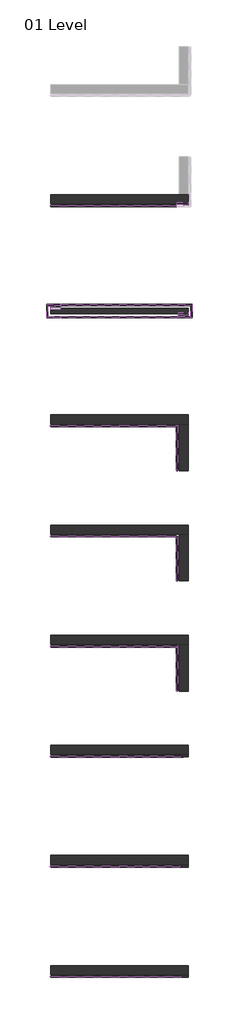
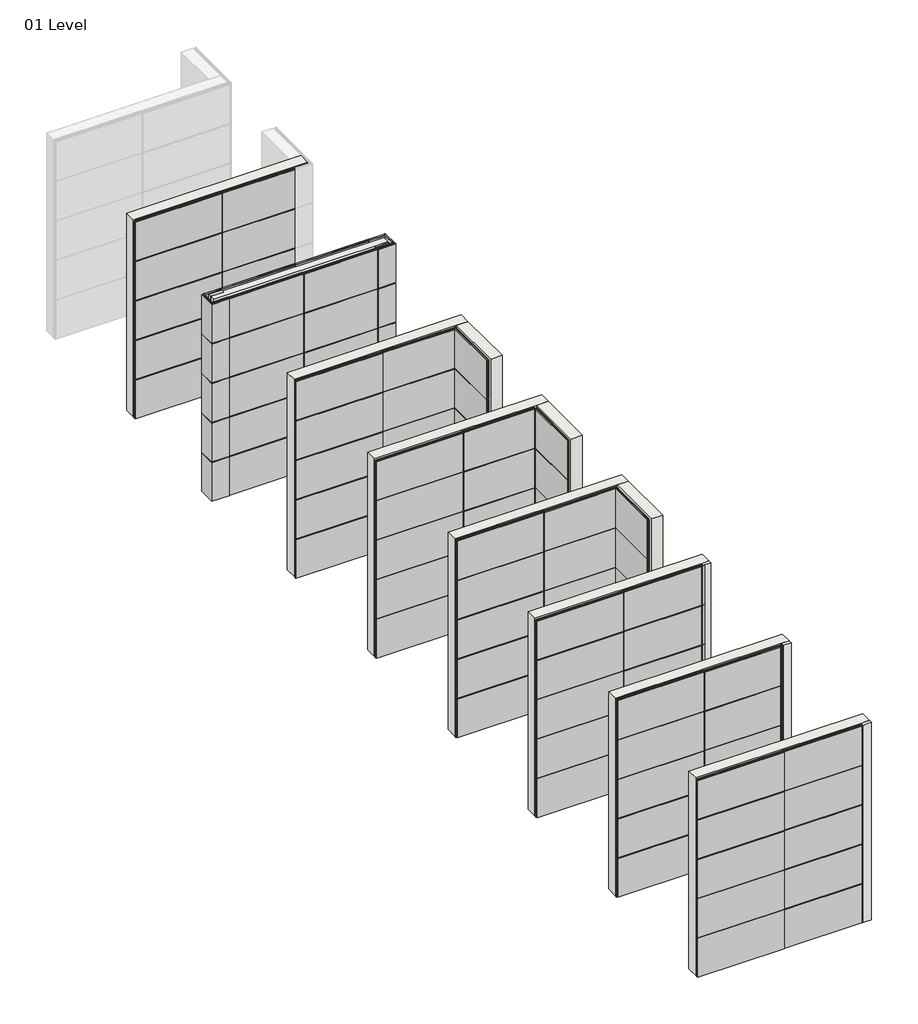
# One storey, part 1 of 9: 130 plates, 14 walls.
"""IFC4 building model written with IfcOpenShell, lengths in millimetres."""

from ifc_helpers import new_model, si_unit, frame, origin, origin_with_axes, place, context, project, spatial, polyline, outline, extrude, faceted_brep, transform, mapped, element, save
from components import plate_15c921bf, plate_c43d1202, plate_b0df7e0a, plate_319040bf, plate_e989e5cf, plate_f7a88e82, plate_eaba8ef4, plate_4dd33a9e, plate_b3fd9b4b, plate_bf6faf88, plate_71c73165, plate_b28a252d, empty_system_panel_empty_985d2cdc, empty_system_panel_empty_90a12fe6

model = new_model("IFC4")

# Units and contexts
model_context = context("Model", 3, world=origin())
ifc_project = project(units=[si_unit("LENGTHUNIT", "METRE", prefix="MILLI")], contexts=[model_context])

# Site, building, storey
site = spatial("IfcSite", under=ifc_project)
building = spatial("IfcBuilding", under=site)
storey = spatial("IfcBuildingStorey", under=building, Name="01 Level", Elevation=0.0)

# Plates
placement = place(None, origin())
plate_shape = plate_15c921bf(model_context)
element("IfcPlate", 1, ObjectType="Trimo_Qbiss Screen_Normal Panel-HORIZONTAL : HR - B", at=placement, inside=storey, context=model_context, shape_type="MappedRepresentation", body=[
    mapped(plate_shape, transform((-37452.2237135, -3083.2713317, 0.0), x_axis=(-1.0, 0.0, 0.0), y_axis=(0.0, -1.0, 0.0), z_axis=(0.0, 0.0, 1.0))),
])
element("IfcPlate", 2, ObjectType="Trimo_Qbiss Screen_Normal Panel-HORIZONTAL : HR - B", at=placement, inside=storey, context=model_context, shape_type="MappedRepresentation", body=[
    mapped(plate_shape, transform((-37452.2237135, -3083.2713317, 4800.0), x_axis=(-1.0, 0.0, 0.0), y_axis=(0.0, -1.0, 0.0), z_axis=(0.0, 0.0, 1.0))),
])
element("IfcPlate", 3, ObjectType="Trimo_Qbiss Screen_Normal Panel-HORIZONTAL : HR - B", at=placement, inside=storey, context=model_context, shape_type="MappedRepresentation", body=[
    mapped(plate_shape, transform((-37452.2237135, -3083.2713317, 2400.0), x_axis=(-1.0, 0.0, 0.0), y_axis=(0.0, -1.0, 0.0), z_axis=(0.0, 0.0, 1.0))),
])
element("IfcPlate", 4, ObjectType="Trimo_Qbiss Screen_Normal Panel-HORIZONTAL : HR - B", at=placement, inside=storey, context=model_context, shape_type="MappedRepresentation", body=[
    mapped(plate_shape, transform((-37452.2237135, -3083.2713317, 3600.0), x_axis=(-1.0, 0.0, 0.0), y_axis=(0.0, -1.0, 0.0), z_axis=(0.0, 0.0, 1.0))),
])
element("IfcPlate", 5, ObjectType="Trimo_Qbiss Screen_Normal Panel-HORIZONTAL : HR - B", at=placement, inside=storey, context=model_context, shape_type="MappedRepresentation", body=[
    mapped(plate_shape, transform((-37452.2237135, -3083.2713317, 1200.0), x_axis=(-1.0, 0.0, 0.0), y_axis=(0.0, -1.0, 0.0), z_axis=(0.0, 0.0, 1.0))),
])
element("IfcPlate", 6, ObjectType="Trimo_Qbiss Screen_Normal Panel-HORIZONTAL : HR - B", at=placement, inside=storey, context=model_context, shape_type="MappedRepresentation", body=[
    mapped(plate_shape, transform((-37452.2237135, -11083.2713317, 0.0), x_axis=(-1.0, 0.0, 0.0), y_axis=(0.0, -1.0, 0.0), z_axis=(0.0, 0.0, 1.0))),
])
element("IfcPlate", 7, ObjectType="Trimo_Qbiss Screen_Normal Panel-HORIZONTAL : HR - B", at=placement, inside=storey, context=model_context, shape_type="MappedRepresentation", body=[
    mapped(plate_shape, transform((-37452.2237135, -11083.2713317, 4800.0), x_axis=(-1.0, 0.0, 0.0), y_axis=(0.0, -1.0, 0.0), z_axis=(0.0, 0.0, 1.0))),
])
element("IfcPlate", 8, ObjectType="Trimo_Qbiss Screen_Normal Panel-HORIZONTAL : HR - B", at=placement, inside=storey, context=model_context, shape_type="MappedRepresentation", body=[
    mapped(plate_shape, transform((-37452.2237135, -11083.2713317, 2400.0), x_axis=(-1.0, 0.0, 0.0), y_axis=(0.0, -1.0, 0.0), z_axis=(0.0, 0.0, 1.0))),
])
element("IfcPlate", 9, ObjectType="Trimo_Qbiss Screen_Normal Panel-HORIZONTAL : HR - B", at=placement, inside=storey, context=model_context, shape_type="MappedRepresentation", body=[
    mapped(plate_shape, transform((-37452.2237135, -11083.2713317, 3600.0), x_axis=(-1.0, 0.0, 0.0), y_axis=(0.0, -1.0, 0.0), z_axis=(0.0, 0.0, 1.0))),
])
element("IfcPlate", 10, ObjectType="Trimo_Qbiss Screen_Normal Panel-HORIZONTAL : HR - B", at=placement, inside=storey, context=model_context, shape_type="MappedRepresentation", body=[
    mapped(plate_shape, transform((-37452.2237135, -11083.2713317, 1200.0), x_axis=(-1.0, 0.0, 0.0), y_axis=(0.0, -1.0, 0.0), z_axis=(0.0, 0.0, 1.0))),
])
element("IfcPlate", 11, ObjectType="Trimo_Qbiss Screen_Normal Panel-HORIZONTAL : HR - B", at=placement, inside=storey, context=model_context, shape_type="MappedRepresentation", body=[
    mapped(plate_shape, transform((-37452.2237135, -15083.2713317, 0.0), x_axis=(-1.0, 0.0, 0.0), y_axis=(0.0, -1.0, 0.0), z_axis=(0.0, 0.0, 1.0))),
])
element("IfcPlate", 12, ObjectType="Trimo_Qbiss Screen_Normal Panel-HORIZONTAL : HR - B", at=placement, inside=storey, context=model_context, shape_type="MappedRepresentation", body=[
    mapped(plate_shape, transform((-37452.2237135, -15083.2713317, 4800.0), x_axis=(-1.0, 0.0, 0.0), y_axis=(0.0, -1.0, 0.0), z_axis=(0.0, 0.0, 1.0))),
])
element("IfcPlate", 13, ObjectType="Trimo_Qbiss Screen_Normal Panel-HORIZONTAL : HR - B", at=placement, inside=storey, context=model_context, shape_type="MappedRepresentation", body=[
    mapped(plate_shape, transform((-37452.2237135, -15083.2713317, 2400.0), x_axis=(-1.0, 0.0, 0.0), y_axis=(0.0, -1.0, 0.0), z_axis=(0.0, 0.0, 1.0))),
])
element("IfcPlate", 14, ObjectType="Trimo_Qbiss Screen_Normal Panel-HORIZONTAL : HR - B", at=placement, inside=storey, context=model_context, shape_type="MappedRepresentation", body=[
    mapped(plate_shape, transform((-37452.2237135, -15083.2713317, 3600.0), x_axis=(-1.0, 0.0, 0.0), y_axis=(0.0, -1.0, 0.0), z_axis=(0.0, 0.0, 1.0))),
])
element("IfcPlate", 15, ObjectType="Trimo_Qbiss Screen_Normal Panel-HORIZONTAL : HR - B", at=placement, inside=storey, context=model_context, shape_type="MappedRepresentation", body=[
    mapped(plate_shape, transform((-37452.2237135, -15083.2713317, 1200.0), x_axis=(-1.0, 0.0, 0.0), y_axis=(0.0, -1.0, 0.0), z_axis=(0.0, 0.0, 1.0))),
])
element("IfcPlate", 16, ObjectType="Trimo_Qbiss Screen_Normal Panel-HORIZONTAL : HR - B", at=placement, inside=storey, context=model_context, shape_type="MappedRepresentation", body=[
    mapped(plate_shape, transform((-37452.2237135, -19083.2713317, 0.0), x_axis=(-1.0, 0.0, 0.0), y_axis=(0.0, -1.0, 0.0), z_axis=(0.0, 0.0, 1.0))),
])
element("IfcPlate", 17, ObjectType="Trimo_Qbiss Screen_Normal Panel-HORIZONTAL : HR - B", at=placement, inside=storey, context=model_context, shape_type="MappedRepresentation", body=[
    mapped(plate_shape, transform((-37452.2237135, -19083.2713317, 4800.0), x_axis=(-1.0, 0.0, 0.0), y_axis=(0.0, -1.0, 0.0), z_axis=(0.0, 0.0, 1.0))),
])
element("IfcPlate", 18, ObjectType="Trimo_Qbiss Screen_Normal Panel-HORIZONTAL : HR - B", at=placement, inside=storey, context=model_context, shape_type="MappedRepresentation", body=[
    mapped(plate_shape, transform((-37452.2237135, -19083.2713317, 2400.0), x_axis=(-1.0, 0.0, 0.0), y_axis=(0.0, -1.0, 0.0), z_axis=(0.0, 0.0, 1.0))),
])
element("IfcPlate", 19, ObjectType="Trimo_Qbiss Screen_Normal Panel-HORIZONTAL : HR - B", at=placement, inside=storey, context=model_context, shape_type="MappedRepresentation", body=[
    mapped(plate_shape, transform((-37452.2237135, -19083.2713317, 3600.0), x_axis=(-1.0, 0.0, 0.0), y_axis=(0.0, -1.0, 0.0), z_axis=(0.0, 0.0, 1.0))),
])
element("IfcPlate", 20, ObjectType="Trimo_Qbiss Screen_Normal Panel-HORIZONTAL : HR - B", at=placement, inside=storey, context=model_context, shape_type="MappedRepresentation", body=[
    mapped(plate_shape, transform((-37452.2237135, -19083.2713317, 1200.0), x_axis=(-1.0, 0.0, 0.0), y_axis=(0.0, -1.0, 0.0), z_axis=(0.0, 0.0, 1.0))),
])
element("IfcPlate", 21, ObjectType="Trimo_Qbiss Screen_Normal Panel-HORIZONTAL : HR - B", at=placement, inside=storey, context=model_context, shape_type="MappedRepresentation", body=[
    mapped(plate_shape, transform((-37452.2237135, -23083.2713317, 0.0), x_axis=(-1.0, 0.0, 0.0), y_axis=(0.0, -1.0, 0.0), z_axis=(0.0, 0.0, 1.0))),
])
element("IfcPlate", 22, ObjectType="Trimo_Qbiss Screen_Normal Panel-HORIZONTAL : HR - B", at=placement, inside=storey, context=model_context, shape_type="MappedRepresentation", body=[
    mapped(plate_shape, transform((-37452.2237135, -23083.2713317, 4800.0), x_axis=(-1.0, 0.0, 0.0), y_axis=(0.0, -1.0, 0.0), z_axis=(0.0, 0.0, 1.0))),
])
element("IfcPlate", 23, ObjectType="Trimo_Qbiss Screen_Normal Panel-HORIZONTAL : HR - B", at=placement, inside=storey, context=model_context, shape_type="MappedRepresentation", body=[
    mapped(plate_shape, transform((-37452.2237135, -23083.2713317, 2400.0), x_axis=(-1.0, 0.0, 0.0), y_axis=(0.0, -1.0, 0.0), z_axis=(0.0, 0.0, 1.0))),
])
element("IfcPlate", 24, ObjectType="Trimo_Qbiss Screen_Normal Panel-HORIZONTAL : HR - B", at=placement, inside=storey, context=model_context, shape_type="MappedRepresentation", body=[
    mapped(plate_shape, transform((-37452.2237135, -23083.2713317, 3600.0), x_axis=(-1.0, 0.0, 0.0), y_axis=(0.0, -1.0, 0.0), z_axis=(0.0, 0.0, 1.0))),
])
element("IfcPlate", 25, ObjectType="Trimo_Qbiss Screen_Normal Panel-HORIZONTAL : HR - B", at=placement, inside=storey, context=model_context, shape_type="MappedRepresentation", body=[
    mapped(plate_shape, transform((-37452.2237135, -23083.2713317, 1200.0), x_axis=(-1.0, 0.0, 0.0), y_axis=(0.0, -1.0, 0.0), z_axis=(0.0, 0.0, 1.0))),
])
element("IfcPlate", 26, ObjectType="Trimo_Qbiss Screen_Normal Panel-HORIZONTAL : HR - B", at=placement, inside=storey, context=model_context, shape_type="MappedRepresentation", body=[
    mapped(plate_shape, transform((-37452.2237135, -27083.2713317, 0.0), x_axis=(-1.0, 0.0, 0.0), y_axis=(0.0, -1.0, 0.0), z_axis=(0.0, 0.0, 1.0))),
])
element("IfcPlate", 27, ObjectType="Trimo_Qbiss Screen_Normal Panel-HORIZONTAL : HR - B", at=placement, inside=storey, context=model_context, shape_type="MappedRepresentation", body=[
    mapped(plate_shape, transform((-37452.2237135, -27083.2713317, 4800.0), x_axis=(-1.0, 0.0, 0.0), y_axis=(0.0, -1.0, 0.0), z_axis=(0.0, 0.0, 1.0))),
])
element("IfcPlate", 28, ObjectType="Trimo_Qbiss Screen_Normal Panel-HORIZONTAL : HR - B", at=placement, inside=storey, context=model_context, shape_type="MappedRepresentation", body=[
    mapped(plate_shape, transform((-37452.2237135, -27083.2713317, 2400.0), x_axis=(-1.0, 0.0, 0.0), y_axis=(0.0, -1.0, 0.0), z_axis=(0.0, 0.0, 1.0))),
])
element("IfcPlate", 29, ObjectType="Trimo_Qbiss Screen_Normal Panel-HORIZONTAL : HR - B", at=placement, inside=storey, context=model_context, shape_type="MappedRepresentation", body=[
    mapped(plate_shape, transform((-37452.2237135, -27083.2713317, 3600.0), x_axis=(-1.0, 0.0, 0.0), y_axis=(0.0, -1.0, 0.0), z_axis=(0.0, 0.0, 1.0))),
])
element("IfcPlate", 30, ObjectType="Trimo_Qbiss Screen_Normal Panel-HORIZONTAL : HR - B", at=placement, inside=storey, context=model_context, shape_type="MappedRepresentation", body=[
    mapped(plate_shape, transform((-37452.2237135, -27083.2713317, 1200.0), x_axis=(-1.0, 0.0, 0.0), y_axis=(0.0, -1.0, 0.0), z_axis=(0.0, 0.0, 1.0))),
])
element("IfcPlate", 31, ObjectType="Trimo_Qbiss Screen_Normal Panel-HORIZONTAL : HR - B", at=placement, inside=storey, context=model_context, shape_type="MappedRepresentation", body=[
    mapped(plate_shape, transform((-37452.2237135, -31083.2713317, 0.0), x_axis=(-1.0, 0.0, 0.0), y_axis=(0.0, -1.0, 0.0), z_axis=(0.0, 0.0, 1.0))),
])
element("IfcPlate", 32, ObjectType="Trimo_Qbiss Screen_Normal Panel-HORIZONTAL : HR - B", at=placement, inside=storey, context=model_context, shape_type="MappedRepresentation", body=[
    mapped(plate_shape, transform((-37452.2237135, -31083.2713317, 4800.0), x_axis=(-1.0, 0.0, 0.0), y_axis=(0.0, -1.0, 0.0), z_axis=(0.0, 0.0, 1.0))),
])
element("IfcPlate", 33, ObjectType="Trimo_Qbiss Screen_Normal Panel-HORIZONTAL : HR - B", at=placement, inside=storey, context=model_context, shape_type="MappedRepresentation", body=[
    mapped(plate_shape, transform((-37452.2237135, -31083.2713317, 2400.0), x_axis=(-1.0, 0.0, 0.0), y_axis=(0.0, -1.0, 0.0), z_axis=(0.0, 0.0, 1.0))),
])
element("IfcPlate", 34, ObjectType="Trimo_Qbiss Screen_Normal Panel-HORIZONTAL : HR - B", at=placement, inside=storey, context=model_context, shape_type="MappedRepresentation", body=[
    mapped(plate_shape, transform((-37452.2237135, -31083.2713317, 3600.0), x_axis=(-1.0, 0.0, 0.0), y_axis=(0.0, -1.0, 0.0), z_axis=(0.0, 0.0, 1.0))),
])
element("IfcPlate", 35, ObjectType="Trimo_Qbiss Screen_Normal Panel-HORIZONTAL : HR - B", at=placement, inside=storey, context=model_context, shape_type="MappedRepresentation", body=[
    mapped(plate_shape, transform((-37452.2237135, -31083.2713317, 1200.0), x_axis=(-1.0, 0.0, 0.0), y_axis=(0.0, -1.0, 0.0), z_axis=(0.0, 0.0, 1.0))),
])
plate_2_shape = plate_c43d1202(model_context)
element("IfcPlate", 36, ObjectType="Trimo_Qbiss Screen_Normal Panel-HORIZONTAL : HR - B", at=placement, inside=storey, context=model_context, shape_type="MappedRepresentation", body=[
    mapped(plate_2_shape, transform((-37268.4737135, -7083.2713317, 0.0), x_axis=(-1.0, 0.0, 0.0), y_axis=(0.0, -1.0, 0.0), z_axis=(0.0, 0.0, 1.0))),
])
element("IfcPlate", 37, ObjectType="Trimo_Qbiss Screen_Normal Panel-HORIZONTAL : HR - B", at=placement, inside=storey, context=model_context, shape_type="MappedRepresentation", body=[
    mapped(plate_2_shape, transform((-37268.4737135, -7083.2713317, 4800.0), x_axis=(-1.0, 0.0, 0.0), y_axis=(0.0, -1.0, 0.0), z_axis=(0.0, 0.0, 1.0))),
])
element("IfcPlate", 38, ObjectType="Trimo_Qbiss Screen_Normal Panel-HORIZONTAL : HR - B", at=placement, inside=storey, context=model_context, shape_type="MappedRepresentation", body=[
    mapped(plate_2_shape, transform((-37268.4737135, -7083.2713317, 2400.0), x_axis=(-1.0, 0.0, 0.0), y_axis=(0.0, -1.0, 0.0), z_axis=(0.0, 0.0, 1.0))),
])
element("IfcPlate", 39, ObjectType="Trimo_Qbiss Screen_Normal Panel-HORIZONTAL : HR - B", at=placement, inside=storey, context=model_context, shape_type="MappedRepresentation", body=[
    mapped(plate_2_shape, transform((-37268.4737135, -7083.2713317, 3600.0), x_axis=(-1.0, 0.0, 0.0), y_axis=(0.0, -1.0, 0.0), z_axis=(0.0, 0.0, 1.0))),
])
element("IfcPlate", 40, ObjectType="Trimo_Qbiss Screen_Normal Panel-HORIZONTAL : HR - B", at=placement, inside=storey, context=model_context, shape_type="MappedRepresentation", body=[
    mapped(plate_2_shape, transform((-37268.4737135, -7083.2713317, 1200.0), x_axis=(-1.0, 0.0, 0.0), y_axis=(0.0, -1.0, 0.0), z_axis=(0.0, 0.0, 1.0))),
])
element("IfcPlate", 41, ObjectType="Trimo_Qbiss Screen_Normal Panel-HORIZONTAL : HR - B", at=placement, inside=storey, context=model_context, shape_type="MappedRepresentation", body=[
    mapped(plate_2_shape, transform((-35135.9737135, -7083.2713317, 0.0), x_axis=(-1.0, 0.0, 0.0), y_axis=(0.0, -1.0, 0.0), z_axis=(0.0, 0.0, 1.0))),
])
element("IfcPlate", 42, ObjectType="Trimo_Qbiss Screen_Normal Panel-HORIZONTAL : HR - B", at=placement, inside=storey, context=model_context, shape_type="MappedRepresentation", body=[
    mapped(plate_2_shape, transform((-35135.9737135, -7083.2713317, 1200.0), x_axis=(-1.0, 0.0, 0.0), y_axis=(0.0, -1.0, 0.0), z_axis=(0.0, 0.0, 1.0))),
])
element("IfcPlate", 43, ObjectType="Trimo_Qbiss Screen_Normal Panel-HORIZONTAL : HR - B", at=placement, inside=storey, context=model_context, shape_type="MappedRepresentation", body=[
    mapped(plate_2_shape, transform((-35135.9737135, -7083.2713317, 2400.0), x_axis=(-1.0, 0.0, 0.0), y_axis=(0.0, -1.0, 0.0), z_axis=(0.0, 0.0, 1.0))),
])
element("IfcPlate", 44, ObjectType="Trimo_Qbiss Screen_Normal Panel-HORIZONTAL : HR - B", at=placement, inside=storey, context=model_context, shape_type="MappedRepresentation", body=[
    mapped(plate_2_shape, transform((-35135.9737135, -7083.2713317, 3600.0), x_axis=(-1.0, 0.0, 0.0), y_axis=(0.0, -1.0, 0.0), z_axis=(0.0, 0.0, 1.0))),
])
element("IfcPlate", 45, ObjectType="Trimo_Qbiss Screen_Normal Panel-HORIZONTAL : HR - B", at=placement, inside=storey, context=model_context, shape_type="MappedRepresentation", body=[
    mapped(plate_2_shape, transform((-35135.9737135, -7083.2713317, 4800.0), x_axis=(-1.0, 0.0, 0.0), y_axis=(0.0, -1.0, 0.0), z_axis=(0.0, 0.0, 1.0))),
])
element("IfcPlate", 46, ObjectType="Trimo_Qbiss Screen_Normal Panel-HORIZONTAL : HR - B", at=placement, inside=storey, context=model_context, shape_type="MappedRepresentation", body=[
    mapped(plate_2_shape, transform((-37268.4737135, -6883.2713317, 0.0), x_axis=(1.0, 0.0, 0.0), y_axis=(0.0, 1.0, 0.0), z_axis=(0.0, 0.0, 1.0))),
])
element("IfcPlate", 47, ObjectType="Trimo_Qbiss Screen_Normal Panel-HORIZONTAL : HR - B", at=placement, inside=storey, context=model_context, shape_type="MappedRepresentation", body=[
    mapped(plate_2_shape, transform((-37268.4737135, -6883.2713317, 1200.0), x_axis=(1.0, 0.0, 0.0), y_axis=(0.0, 1.0, 0.0), z_axis=(0.0, 0.0, 1.0))),
])
element("IfcPlate", 48, ObjectType="Trimo_Qbiss Screen_Normal Panel-HORIZONTAL : HR - B", at=placement, inside=storey, context=model_context, shape_type="MappedRepresentation", body=[
    mapped(plate_2_shape, transform((-37268.4737135, -6883.2713317, 2400.0), x_axis=(1.0, 0.0, 0.0), y_axis=(0.0, 1.0, 0.0), z_axis=(0.0, 0.0, 1.0))),
])
element("IfcPlate", 49, ObjectType="Trimo_Qbiss Screen_Normal Panel-HORIZONTAL : HR - B", at=placement, inside=storey, context=model_context, shape_type="MappedRepresentation", body=[
    mapped(plate_2_shape, transform((-37268.4737135, -6883.2713317, 3600.0), x_axis=(1.0, 0.0, 0.0), y_axis=(0.0, 1.0, 0.0), z_axis=(0.0, 0.0, 1.0))),
])
element("IfcPlate", 50, ObjectType="Trimo_Qbiss Screen_Normal Panel-HORIZONTAL : HR - B", at=placement, inside=storey, context=model_context, shape_type="MappedRepresentation", body=[
    mapped(plate_2_shape, transform((-37268.4737135, -6883.2713317, 4800.0), x_axis=(1.0, 0.0, 0.0), y_axis=(0.0, 1.0, 0.0), z_axis=(0.0, 0.0, 1.0))),
])
element("IfcPlate", 51, ObjectType="Trimo_Qbiss Screen_Normal Panel-HORIZONTAL : HR - B", at=placement, inside=storey, context=model_context, shape_type="MappedRepresentation", body=[
    mapped(plate_2_shape, transform((-35135.9737135, -6883.2713317, 0.0), x_axis=(1.0, 0.0, 0.0), y_axis=(0.0, 1.0, 0.0), z_axis=(0.0, 0.0, 1.0))),
])
element("IfcPlate", 52, ObjectType="Trimo_Qbiss Screen_Normal Panel-HORIZONTAL : HR - B", at=placement, inside=storey, context=model_context, shape_type="MappedRepresentation", body=[
    mapped(plate_2_shape, transform((-35135.9737135, -6883.2713317, 1200.0), x_axis=(1.0, 0.0, 0.0), y_axis=(0.0, 1.0, 0.0), z_axis=(0.0, 0.0, 1.0))),
])
element("IfcPlate", 53, ObjectType="Trimo_Qbiss Screen_Normal Panel-HORIZONTAL : HR - B", at=placement, inside=storey, context=model_context, shape_type="MappedRepresentation", body=[
    mapped(plate_2_shape, transform((-35135.9737135, -6883.2713317, 2400.0), x_axis=(1.0, 0.0, 0.0), y_axis=(0.0, 1.0, 0.0), z_axis=(0.0, 0.0, 1.0))),
])
element("IfcPlate", 54, ObjectType="Trimo_Qbiss Screen_Normal Panel-HORIZONTAL : HR - B", at=placement, inside=storey, context=model_context, shape_type="MappedRepresentation", body=[
    mapped(plate_2_shape, transform((-35135.9737135, -6883.2713317, 3600.0), x_axis=(1.0, 0.0, 0.0), y_axis=(0.0, 1.0, 0.0), z_axis=(0.0, 0.0, 1.0))),
])
element("IfcPlate", 55, ObjectType="Trimo_Qbiss Screen_Normal Panel-HORIZONTAL : HR - B", at=placement, inside=storey, context=model_context, shape_type="MappedRepresentation", body=[
    mapped(plate_2_shape, transform((-35135.9737135, -6883.2713317, 4800.0), x_axis=(1.0, 0.0, 0.0), y_axis=(0.0, 1.0, 0.0), z_axis=(0.0, 0.0, 1.0))),
])
plate_3_shape = plate_b0df7e0a(model_context)
element("IfcPlate", 56, ObjectType="Trimo_Qbiss Screen_Normal Panel-HORIZONTAL : HR - B", at=placement, inside=storey, context=model_context, shape_type="MappedRepresentation", body=[
    mapped(plate_3_shape, transform((-35117.2237135, -11083.2713317, 0.0), x_axis=(-1.0, 0.0, 0.0), y_axis=(0.0, -1.0, 0.0), z_axis=(0.0, 0.0, 1.0))),
])
element("IfcPlate", 57, ObjectType="Trimo_Qbiss Screen_Normal Panel-HORIZONTAL : HR - B", at=placement, inside=storey, context=model_context, shape_type="MappedRepresentation", body=[
    mapped(plate_3_shape, transform((-35117.2237135, -11083.2713317, 4800.0), x_axis=(-1.0, 0.0, 0.0), y_axis=(0.0, -1.0, 0.0), z_axis=(0.0, 0.0, 1.0))),
])
element("IfcPlate", 58, ObjectType="Trimo_Qbiss Screen_Normal Panel-HORIZONTAL : HR - B", at=placement, inside=storey, context=model_context, shape_type="MappedRepresentation", body=[
    mapped(plate_3_shape, transform((-35117.2237135, -11083.2713317, 2400.0), x_axis=(-1.0, 0.0, 0.0), y_axis=(0.0, -1.0, 0.0), z_axis=(0.0, 0.0, 1.0))),
])
element("IfcPlate", 59, ObjectType="Trimo_Qbiss Screen_Normal Panel-HORIZONTAL : HR - B", at=placement, inside=storey, context=model_context, shape_type="MappedRepresentation", body=[
    mapped(plate_3_shape, transform((-35117.2237135, -11083.2713317, 3600.0), x_axis=(-1.0, 0.0, 0.0), y_axis=(0.0, -1.0, 0.0), z_axis=(0.0, 0.0, 1.0))),
])
element("IfcPlate", 60, ObjectType="Trimo_Qbiss Screen_Normal Panel-HORIZONTAL : HR - B", at=placement, inside=storey, context=model_context, shape_type="MappedRepresentation", body=[
    mapped(plate_3_shape, transform((-35117.2237135, -11083.2713317, 1200.0), x_axis=(-1.0, 0.0, 0.0), y_axis=(0.0, -1.0, 0.0), z_axis=(0.0, 0.0, 1.0))),
])
element("IfcPlate", 61, ObjectType="Trimo_Qbiss Screen_Normal Panel-HORIZONTAL : HR - B", at=placement, inside=storey, context=model_context, shape_type="MappedRepresentation", body=[
    mapped(plate_3_shape, transform((-35117.2237135, -15083.2713317, 0.0), x_axis=(-1.0, 0.0, 0.0), y_axis=(0.0, -1.0, 0.0), z_axis=(0.0, 0.0, 1.0))),
])
element("IfcPlate", 62, ObjectType="Trimo_Qbiss Screen_Normal Panel-HORIZONTAL : HR - B", at=placement, inside=storey, context=model_context, shape_type="MappedRepresentation", body=[
    mapped(plate_3_shape, transform((-35117.2237135, -15083.2713317, 4800.0), x_axis=(-1.0, 0.0, 0.0), y_axis=(0.0, -1.0, 0.0), z_axis=(0.0, 0.0, 1.0))),
])
element("IfcPlate", 63, ObjectType="Trimo_Qbiss Screen_Normal Panel-HORIZONTAL : HR - B", at=placement, inside=storey, context=model_context, shape_type="MappedRepresentation", body=[
    mapped(plate_3_shape, transform((-35117.2237135, -15083.2713317, 2400.0), x_axis=(-1.0, 0.0, 0.0), y_axis=(0.0, -1.0, 0.0), z_axis=(0.0, 0.0, 1.0))),
])
element("IfcPlate", 64, ObjectType="Trimo_Qbiss Screen_Normal Panel-HORIZONTAL : HR - B", at=placement, inside=storey, context=model_context, shape_type="MappedRepresentation", body=[
    mapped(plate_3_shape, transform((-35117.2237135, -15083.2713317, 3600.0), x_axis=(-1.0, 0.0, 0.0), y_axis=(0.0, -1.0, 0.0), z_axis=(0.0, 0.0, 1.0))),
])
element("IfcPlate", 65, ObjectType="Trimo_Qbiss Screen_Normal Panel-HORIZONTAL : HR - B", at=placement, inside=storey, context=model_context, shape_type="MappedRepresentation", body=[
    mapped(plate_3_shape, transform((-35117.2237135, -15083.2713317, 1200.0), x_axis=(-1.0, 0.0, 0.0), y_axis=(0.0, -1.0, 0.0), z_axis=(0.0, 0.0, 1.0))),
])
plate_4_shape = plate_319040bf(model_context)
element("IfcPlate", 66, ObjectType="Trimo_Qbiss Screen_Normal Panel-HORIZONTAL : HR - B", at=placement, inside=storey, context=model_context, shape_type="MappedRepresentation", body=[
    mapped(plate_4_shape, transform((-35117.2237135, -19083.2713317, 0.0), x_axis=(-1.0, 0.0, 0.0), y_axis=(0.0, -1.0, 0.0), z_axis=(0.0, 0.0, 1.0))),
])
element("IfcPlate", 67, ObjectType="Trimo_Qbiss Screen_Normal Panel-HORIZONTAL : HR - B", at=placement, inside=storey, context=model_context, shape_type="MappedRepresentation", body=[
    mapped(plate_4_shape, transform((-35117.2237135, -19083.2713317, 4800.0), x_axis=(-1.0, 0.0, 0.0), y_axis=(0.0, -1.0, 0.0), z_axis=(0.0, 0.0, 1.0))),
])
element("IfcPlate", 68, ObjectType="Trimo_Qbiss Screen_Normal Panel-HORIZONTAL : HR - B", at=placement, inside=storey, context=model_context, shape_type="MappedRepresentation", body=[
    mapped(plate_4_shape, transform((-35117.2237135, -19083.2713317, 2400.0), x_axis=(-1.0, 0.0, 0.0), y_axis=(0.0, -1.0, 0.0), z_axis=(0.0, 0.0, 1.0))),
])
element("IfcPlate", 69, ObjectType="Trimo_Qbiss Screen_Normal Panel-HORIZONTAL : HR - B", at=placement, inside=storey, context=model_context, shape_type="MappedRepresentation", body=[
    mapped(plate_4_shape, transform((-35117.2237135, -19083.2713317, 3600.0), x_axis=(-1.0, 0.0, 0.0), y_axis=(0.0, -1.0, 0.0), z_axis=(0.0, 0.0, 1.0))),
])
element("IfcPlate", 70, ObjectType="Trimo_Qbiss Screen_Normal Panel-HORIZONTAL : HR - B", at=placement, inside=storey, context=model_context, shape_type="MappedRepresentation", body=[
    mapped(plate_4_shape, transform((-35117.2237135, -19083.2713317, 1200.0), x_axis=(-1.0, 0.0, 0.0), y_axis=(0.0, -1.0, 0.0), z_axis=(0.0, 0.0, 1.0))),
])
plate_5_shape = plate_e989e5cf(model_context)
element("IfcPlate", 71, ObjectType="Trimo_Qbiss Screen_Normal Panel-HORIZONTAL : HR - B", at=placement, inside=storey, context=model_context, shape_type="MappedRepresentation", body=[
    mapped(plate_5_shape, transform((-35067.2237135, -23083.2713317, 0.0), x_axis=(-1.0, 0.0, 0.0), y_axis=(0.0, -1.0, 0.0), z_axis=(0.0, 0.0, 1.0))),
])
element("IfcPlate", 72, ObjectType="Trimo_Qbiss Screen_Normal Panel-HORIZONTAL : HR - B", at=placement, inside=storey, context=model_context, shape_type="MappedRepresentation", body=[
    mapped(plate_5_shape, transform((-35067.2237135, -23083.2713317, 4800.0), x_axis=(-1.0, 0.0, 0.0), y_axis=(0.0, -1.0, 0.0), z_axis=(0.0, 0.0, 1.0))),
])
element("IfcPlate", 73, ObjectType="Trimo_Qbiss Screen_Normal Panel-HORIZONTAL : HR - B", at=placement, inside=storey, context=model_context, shape_type="MappedRepresentation", body=[
    mapped(plate_5_shape, transform((-35067.2237135, -23083.2713317, 2400.0), x_axis=(-1.0, 0.0, 0.0), y_axis=(0.0, -1.0, 0.0), z_axis=(0.0, 0.0, 1.0))),
])
element("IfcPlate", 74, ObjectType="Trimo_Qbiss Screen_Normal Panel-HORIZONTAL : HR - B", at=placement, inside=storey, context=model_context, shape_type="MappedRepresentation", body=[
    mapped(plate_5_shape, transform((-35067.2237135, -23083.2713317, 3600.0), x_axis=(-1.0, 0.0, 0.0), y_axis=(0.0, -1.0, 0.0), z_axis=(0.0, 0.0, 1.0))),
])
element("IfcPlate", 75, ObjectType="Trimo_Qbiss Screen_Normal Panel-HORIZONTAL : HR - B", at=placement, inside=storey, context=model_context, shape_type="MappedRepresentation", body=[
    mapped(plate_5_shape, transform((-35067.2237135, -23083.2713317, 1200.0), x_axis=(-1.0, 0.0, 0.0), y_axis=(0.0, -1.0, 0.0), z_axis=(0.0, 0.0, 1.0))),
])
plate_6_shape = plate_f7a88e82(model_context)
element("IfcPlate", 76, ObjectType="Trimo_Qbiss Screen_Normal Panel-HORIZONTAL : HR - B", at=placement, inside=storey, context=model_context, shape_type="MappedRepresentation", body=[
    mapped(plate_6_shape, transform((-35067.2237135, -27083.2713317, 0.0), x_axis=(-1.0, 0.0, 0.0), y_axis=(0.0, -1.0, 0.0), z_axis=(0.0, 0.0, 1.0))),
])
element("IfcPlate", 77, ObjectType="Trimo_Qbiss Screen_Normal Panel-HORIZONTAL : HR - B", at=placement, inside=storey, context=model_context, shape_type="MappedRepresentation", body=[
    mapped(plate_6_shape, transform((-35067.2237135, -27083.2713317, 4800.0), x_axis=(-1.0, 0.0, 0.0), y_axis=(0.0, -1.0, 0.0), z_axis=(0.0, 0.0, 1.0))),
])
element("IfcPlate", 78, ObjectType="Trimo_Qbiss Screen_Normal Panel-HORIZONTAL : HR - B", at=placement, inside=storey, context=model_context, shape_type="MappedRepresentation", body=[
    mapped(plate_6_shape, transform((-35067.2237135, -27083.2713317, 2400.0), x_axis=(-1.0, 0.0, 0.0), y_axis=(0.0, -1.0, 0.0), z_axis=(0.0, 0.0, 1.0))),
])
element("IfcPlate", 79, ObjectType="Trimo_Qbiss Screen_Normal Panel-HORIZONTAL : HR - B", at=placement, inside=storey, context=model_context, shape_type="MappedRepresentation", body=[
    mapped(plate_6_shape, transform((-35067.2237135, -27083.2713317, 3600.0), x_axis=(-1.0, 0.0, 0.0), y_axis=(0.0, -1.0, 0.0), z_axis=(0.0, 0.0, 1.0))),
])
element("IfcPlate", 80, ObjectType="Trimo_Qbiss Screen_Normal Panel-HORIZONTAL : HR - B", at=placement, inside=storey, context=model_context, shape_type="MappedRepresentation", body=[
    mapped(plate_6_shape, transform((-35067.2237135, -27083.2713317, 1200.0), x_axis=(-1.0, 0.0, 0.0), y_axis=(0.0, -1.0, 0.0), z_axis=(0.0, 0.0, 1.0))),
])
plate_7_shape = plate_eaba8ef4(model_context)
element("IfcPlate", 81, ObjectType="Trimo_Qbiss Screen_Normal Panel-HORIZONTAL : HR - B", at=placement, inside=storey, context=model_context, shape_type="MappedRepresentation", body=[
    mapped(plate_7_shape, transform((-35067.2237135, -31083.2713317, 0.0), x_axis=(-1.0, 0.0, 0.0), y_axis=(0.0, -1.0, 0.0), z_axis=(0.0, 0.0, 1.0))),
])
element("IfcPlate", 82, ObjectType="Trimo_Qbiss Screen_Normal Panel-HORIZONTAL : HR - B", at=placement, inside=storey, context=model_context, shape_type="MappedRepresentation", body=[
    mapped(plate_7_shape, transform((-35067.2237135, -31083.2713317, 4800.0), x_axis=(-1.0, 0.0, 0.0), y_axis=(0.0, -1.0, 0.0), z_axis=(0.0, 0.0, 1.0))),
])
element("IfcPlate", 83, ObjectType="Trimo_Qbiss Screen_Normal Panel-HORIZONTAL : HR - B", at=placement, inside=storey, context=model_context, shape_type="MappedRepresentation", body=[
    mapped(plate_7_shape, transform((-35067.2237135, -31083.2713317, 2400.0), x_axis=(-1.0, 0.0, 0.0), y_axis=(0.0, -1.0, 0.0), z_axis=(0.0, 0.0, 1.0))),
])
element("IfcPlate", 84, ObjectType="Trimo_Qbiss Screen_Normal Panel-HORIZONTAL : HR - B", at=placement, inside=storey, context=model_context, shape_type="MappedRepresentation", body=[
    mapped(plate_7_shape, transform((-35067.2237135, -31083.2713317, 3600.0), x_axis=(-1.0, 0.0, 0.0), y_axis=(0.0, -1.0, 0.0), z_axis=(0.0, 0.0, 1.0))),
])
element("IfcPlate", 85, ObjectType="Trimo_Qbiss Screen_Normal Panel-HORIZONTAL : HR - B", at=placement, inside=storey, context=model_context, shape_type="MappedRepresentation", body=[
    mapped(plate_7_shape, transform((-35067.2237135, -31083.2713317, 1200.0), x_axis=(-1.0, 0.0, 0.0), y_axis=(0.0, -1.0, 0.0), z_axis=(0.0, 0.0, 1.0))),
])
plate_8_shape = plate_4dd33a9e(model_context)
element("IfcPlate", 86, ObjectType="Trimo_Qbiss Screen_Normal Panel-HORIZONTAL : HR - B", at=placement, inside=storey, context=model_context, shape_type="MappedRepresentation", body=[
    mapped(plate_8_shape, transform((-34032.2237135, -11933.2713317, 0.0), x_axis=(0.0, 1.0, 0.0), y_axis=(-1.0, 0.0, 0.0), z_axis=(0.0, 0.0, 1.0))),
])
element("IfcPlate", 87, ObjectType="Trimo_Qbiss Screen_Normal Panel-HORIZONTAL : HR - B", at=placement, inside=storey, context=model_context, shape_type="MappedRepresentation", body=[
    mapped(plate_8_shape, transform((-34032.2237135, -11933.2713317, 4800.0), x_axis=(0.0, 1.0, 0.0), y_axis=(-1.0, 0.0, 0.0), z_axis=(0.0, 0.0, 1.0))),
])
element("IfcPlate", 88, ObjectType="Trimo_Qbiss Screen_Normal Panel-HORIZONTAL : HR - B", at=placement, inside=storey, context=model_context, shape_type="MappedRepresentation", body=[
    mapped(plate_8_shape, transform((-34032.2237135, -11933.2713317, 2400.0), x_axis=(0.0, 1.0, 0.0), y_axis=(-1.0, 0.0, 0.0), z_axis=(0.0, 0.0, 1.0))),
])
element("IfcPlate", 89, ObjectType="Trimo_Qbiss Screen_Normal Panel-HORIZONTAL : HR - B", at=placement, inside=storey, context=model_context, shape_type="MappedRepresentation", body=[
    mapped(plate_8_shape, transform((-34032.2237135, -11933.2713317, 3600.0), x_axis=(0.0, 1.0, 0.0), y_axis=(-1.0, 0.0, 0.0), z_axis=(0.0, 0.0, 1.0))),
])
element("IfcPlate", 90, ObjectType="Trimo_Qbiss Screen_Normal Panel-HORIZONTAL : HR - B", at=placement, inside=storey, context=model_context, shape_type="MappedRepresentation", body=[
    mapped(plate_8_shape, transform((-34032.2237135, -11933.2713317, 1200.0), x_axis=(0.0, 1.0, 0.0), y_axis=(-1.0, 0.0, 0.0), z_axis=(0.0, 0.0, 1.0))),
])
plate_9_shape = plate_b3fd9b4b(model_context)
element("IfcPlate", 91, ObjectType="Trimo_Qbiss Screen_Normal Panel-HORIZONTAL : HR - B", at=placement, inside=storey, context=model_context, shape_type="MappedRepresentation", body=[
    mapped(plate_9_shape, transform((-34032.2237135, -15933.2713317, 0.0), x_axis=(0.0, 1.0, 0.0), y_axis=(-1.0, 0.0, 0.0), z_axis=(0.0, 0.0, 1.0))),
])
element("IfcPlate", 92, ObjectType="Trimo_Qbiss Screen_Normal Panel-HORIZONTAL : HR - B", at=placement, inside=storey, context=model_context, shape_type="MappedRepresentation", body=[
    mapped(plate_9_shape, transform((-34032.2237135, -15933.2713317, 4800.0), x_axis=(0.0, 1.0, 0.0), y_axis=(-1.0, 0.0, 0.0), z_axis=(0.0, 0.0, 1.0))),
])
element("IfcPlate", 93, ObjectType="Trimo_Qbiss Screen_Normal Panel-HORIZONTAL : HR - B", at=placement, inside=storey, context=model_context, shape_type="MappedRepresentation", body=[
    mapped(plate_9_shape, transform((-34032.2237135, -15933.2713317, 2400.0), x_axis=(0.0, 1.0, 0.0), y_axis=(-1.0, 0.0, 0.0), z_axis=(0.0, 0.0, 1.0))),
])
element("IfcPlate", 94, ObjectType="Trimo_Qbiss Screen_Normal Panel-HORIZONTAL : HR - B", at=placement, inside=storey, context=model_context, shape_type="MappedRepresentation", body=[
    mapped(plate_9_shape, transform((-34032.2237135, -15933.2713317, 3600.0), x_axis=(0.0, 1.0, 0.0), y_axis=(-1.0, 0.0, 0.0), z_axis=(0.0, 0.0, 1.0))),
])
element("IfcPlate", 95, ObjectType="Trimo_Qbiss Screen_Normal Panel-HORIZONTAL : HR - B", at=placement, inside=storey, context=model_context, shape_type="MappedRepresentation", body=[
    mapped(plate_9_shape, transform((-34032.2237135, -15933.2713317, 1200.0), x_axis=(0.0, 1.0, 0.0), y_axis=(-1.0, 0.0, 0.0), z_axis=(0.0, 0.0, 1.0))),
])
plate_10_shape = plate_bf6faf88(model_context)
element("IfcPlate", 96, ObjectType="Trimo_Qbiss Screen_Normal Panel-HORIZONTAL : HR - B", at=placement, inside=storey, context=model_context, shape_type="MappedRepresentation", body=[
    mapped(plate_10_shape, transform((-34032.2237135, -19933.2713317, 0.0), x_axis=(0.0, 1.0, 0.0), y_axis=(-1.0, 0.0, 0.0), z_axis=(0.0, 0.0, 1.0))),
])
element("IfcPlate", 97, ObjectType="Trimo_Qbiss Screen_Normal Panel-HORIZONTAL : HR - B", at=placement, inside=storey, context=model_context, shape_type="MappedRepresentation", body=[
    mapped(plate_10_shape, transform((-34032.2237135, -19933.2713317, 4800.0), x_axis=(0.0, 1.0, 0.0), y_axis=(-1.0, 0.0, 0.0), z_axis=(0.0, 0.0, 1.0))),
])
element("IfcPlate", 98, ObjectType="Trimo_Qbiss Screen_Normal Panel-HORIZONTAL : HR - B", at=placement, inside=storey, context=model_context, shape_type="MappedRepresentation", body=[
    mapped(plate_10_shape, transform((-34032.2237135, -19933.2713317, 2400.0), x_axis=(0.0, 1.0, 0.0), y_axis=(-1.0, 0.0, 0.0), z_axis=(0.0, 0.0, 1.0))),
])
element("IfcPlate", 99, ObjectType="Trimo_Qbiss Screen_Normal Panel-HORIZONTAL : HR - B", at=placement, inside=storey, context=model_context, shape_type="MappedRepresentation", body=[
    mapped(plate_10_shape, transform((-34032.2237135, -19933.2713317, 3600.0), x_axis=(0.0, 1.0, 0.0), y_axis=(-1.0, 0.0, 0.0), z_axis=(0.0, 0.0, 1.0))),
])
element("IfcPlate", 100, ObjectType="Trimo_Qbiss Screen_Normal Panel-HORIZONTAL : HR - B", at=placement, inside=storey, context=model_context, shape_type="MappedRepresentation", body=[
    mapped(plate_10_shape, transform((-34032.2237135, -19933.2713317, 1200.0), x_axis=(0.0, 1.0, 0.0), y_axis=(-1.0, 0.0, 0.0), z_axis=(0.0, 0.0, 1.0))),
])
plate_11_shape = plate_71c73165(model_context)
element("IfcPlate", 101, ObjectType="Trimo_Qbiss Screen_Normal Panel-HORIZONTAL : HR - B", at=placement, inside=storey, context=model_context, shape_type="MappedRepresentation", body=[
    mapped(plate_11_shape, transform((-35158.4737135, -3083.2713317, 0.0), x_axis=(-1.0, 0.0, 0.0), y_axis=(0.0, -1.0, 0.0), z_axis=(0.0, 0.0, 1.0))),
])
element("IfcPlate", 102, ObjectType="Trimo_Qbiss Screen_Normal Panel-HORIZONTAL : HR - B", at=placement, inside=storey, context=model_context, shape_type="MappedRepresentation", body=[
    mapped(plate_11_shape, transform((-35158.4737135, -3083.2713317, 1200.0), x_axis=(-1.0, 0.0, 0.0), y_axis=(0.0, -1.0, 0.0), z_axis=(0.0, 0.0, 1.0))),
])
element("IfcPlate", 103, ObjectType="Trimo_Qbiss Screen_Normal Panel-HORIZONTAL : HR - B", at=placement, inside=storey, context=model_context, shape_type="MappedRepresentation", body=[
    mapped(plate_11_shape, transform((-35158.4737135, -3083.2713317, 2400.0), x_axis=(-1.0, 0.0, 0.0), y_axis=(0.0, -1.0, 0.0), z_axis=(0.0, 0.0, 1.0))),
])
element("IfcPlate", 104, ObjectType="Trimo_Qbiss Screen_Normal Panel-HORIZONTAL : HR - B", at=placement, inside=storey, context=model_context, shape_type="MappedRepresentation", body=[
    mapped(plate_11_shape, transform((-35158.4737135, -3083.2713317, 3600.0), x_axis=(-1.0, 0.0, 0.0), y_axis=(0.0, -1.0, 0.0), z_axis=(0.0, 0.0, 1.0))),
])
element("IfcPlate", 105, ObjectType="Trimo_Qbiss Screen_Normal Panel-HORIZONTAL : HR - B", at=placement, inside=storey, context=model_context, shape_type="MappedRepresentation", body=[
    mapped(plate_11_shape, transform((-35158.4737135, -3083.2713317, 4800.0), x_axis=(-1.0, 0.0, 0.0), y_axis=(0.0, -1.0, 0.0), z_axis=(0.0, 0.0, 1.0))),
])
plate_12_shape = plate_b28a252d(model_context)
element("IfcPlate", 106, ObjectType="Trimo_Qbiss Screen_U Corner Panel-HORIZONTAL : HR - B", at=placement, inside=storey, context=model_context, shape_type="MappedRepresentation", body=[
    mapped(plate_12_shape, transform((-38518.4737135, -7083.2713317, 0.0), x_axis=(-1.0, 0.0, 0.0), y_axis=(0.0, -1.0, 0.0), z_axis=(0.0, 0.0, 1.0))),
])
element("IfcPlate", 107, ObjectType="Trimo_Qbiss Screen_U Corner Panel-HORIZONTAL : HR - B", at=placement, inside=storey, context=model_context, shape_type="MappedRepresentation", body=[
    mapped(plate_12_shape, transform((-38518.4737135, -7083.2713317, 1200.0), x_axis=(-1.0, 0.0, 0.0), y_axis=(0.0, -1.0, 0.0), z_axis=(0.0, 0.0, 1.0))),
])
element("IfcPlate", 108, ObjectType="Trimo_Qbiss Screen_U Corner Panel-HORIZONTAL : HR - B", at=placement, inside=storey, context=model_context, shape_type="MappedRepresentation", body=[
    mapped(plate_12_shape, transform((-38518.4737135, -7083.2713317, 2400.0), x_axis=(-1.0, 0.0, 0.0), y_axis=(0.0, -1.0, 0.0), z_axis=(0.0, 0.0, 1.0))),
])
element("IfcPlate", 109, ObjectType="Trimo_Qbiss Screen_U Corner Panel-HORIZONTAL : HR - B", at=placement, inside=storey, context=model_context, shape_type="MappedRepresentation", body=[
    mapped(plate_12_shape, transform((-38518.4737135, -7083.2713317, 3600.0), x_axis=(-1.0, 0.0, 0.0), y_axis=(0.0, -1.0, 0.0), z_axis=(0.0, 0.0, 1.0))),
])
element("IfcPlate", 110, ObjectType="Trimo_Qbiss Screen_U Corner Panel-HORIZONTAL : HR - B", at=placement, inside=storey, context=model_context, shape_type="MappedRepresentation", body=[
    mapped(plate_12_shape, transform((-38518.4737135, -7083.2713317, 4800.0), x_axis=(-1.0, 0.0, 0.0), y_axis=(0.0, -1.0, 0.0), z_axis=(0.0, 0.0, 1.0))),
])
element("IfcPlate", 111, ObjectType="Trimo_Qbiss Screen_U Corner Panel-HORIZONTAL : HR - B", at=placement, inside=storey, context=model_context, shape_type="MappedRepresentation", body=[
    mapped(plate_12_shape, transform((-33885.9737135, -6883.2713317, 0.0), x_axis=(1.0, 0.0, 0.0), y_axis=(0.0, 1.0, 0.0), z_axis=(0.0, 0.0, 1.0))),
])
element("IfcPlate", 112, ObjectType="Trimo_Qbiss Screen_U Corner Panel-HORIZONTAL : HR - B", at=placement, inside=storey, context=model_context, shape_type="MappedRepresentation", body=[
    mapped(plate_12_shape, transform((-33885.9737135, -6883.2713317, 1200.0), x_axis=(1.0, 0.0, 0.0), y_axis=(0.0, 1.0, 0.0), z_axis=(0.0, 0.0, 1.0))),
])
element("IfcPlate", 113, ObjectType="Trimo_Qbiss Screen_U Corner Panel-HORIZONTAL : HR - B", at=placement, inside=storey, context=model_context, shape_type="MappedRepresentation", body=[
    mapped(plate_12_shape, transform((-33885.9737135, -6883.2713317, 2400.0), x_axis=(1.0, 0.0, 0.0), y_axis=(0.0, 1.0, 0.0), z_axis=(0.0, 0.0, 1.0))),
])
element("IfcPlate", 114, ObjectType="Trimo_Qbiss Screen_U Corner Panel-HORIZONTAL : HR - B", at=placement, inside=storey, context=model_context, shape_type="MappedRepresentation", body=[
    mapped(plate_12_shape, transform((-33885.9737135, -6883.2713317, 3600.0), x_axis=(1.0, 0.0, 0.0), y_axis=(0.0, 1.0, 0.0), z_axis=(0.0, 0.0, 1.0))),
])
element("IfcPlate", 115, ObjectType="Trimo_Qbiss Screen_U Corner Panel-HORIZONTAL : HR - B", at=placement, inside=storey, context=model_context, shape_type="MappedRepresentation", body=[
    mapped(plate_12_shape, transform((-33885.9737135, -6883.2713317, 4800.0), x_axis=(1.0, 0.0, 0.0), y_axis=(0.0, 1.0, 0.0), z_axis=(0.0, 0.0, 1.0))),
])
empty_system_panel_empty_shape = empty_system_panel_empty_985d2cdc(model_context)
element("IfcPlate", 116, ObjectType="Empty System Panel : Empty", at=placement, inside=storey, context=model_context, shape_type="MappedRepresentation", body=[
    mapped(empty_system_panel_empty_shape, transform((-33908.4737135, -3083.2713317, 0.0), x_axis=(-1.0, 0.0, 0.0), y_axis=(0.0, -1.0, 0.0), z_axis=(0.0, 0.0, 1.0))),
])
element("IfcPlate", 117, ObjectType="Empty System Panel : Empty", at=placement, inside=storey, context=model_context, shape_type="MappedRepresentation", body=[
    mapped(empty_system_panel_empty_shape, transform((-33908.4737135, -3083.2713317, 4800.0), x_axis=(-1.0, 0.0, 0.0), y_axis=(0.0, -1.0, 0.0), z_axis=(0.0, 0.0, 1.0))),
])
element("IfcPlate", 118, ObjectType="Empty System Panel : Empty", at=placement, inside=storey, context=model_context, shape_type="MappedRepresentation", body=[
    mapped(empty_system_panel_empty_shape, transform((-33908.4737135, -3083.2713317, 2400.0), x_axis=(-1.0, 0.0, 0.0), y_axis=(0.0, -1.0, 0.0), z_axis=(0.0, 0.0, 1.0))),
])
element("IfcPlate", 119, ObjectType="Empty System Panel : Empty", at=placement, inside=storey, context=model_context, shape_type="MappedRepresentation", body=[
    mapped(empty_system_panel_empty_shape, transform((-33908.4737135, -3083.2713317, 3600.0), x_axis=(-1.0, 0.0, 0.0), y_axis=(0.0, -1.0, 0.0), z_axis=(0.0, 0.0, 1.0))),
])
element("IfcPlate", 120, ObjectType="Empty System Panel : Empty", at=placement, inside=storey, context=model_context, shape_type="MappedRepresentation", body=[
    mapped(empty_system_panel_empty_shape, transform((-33908.4737135, -3083.2713317, 1200.0), x_axis=(-1.0, 0.0, 0.0), y_axis=(0.0, -1.0, 0.0), z_axis=(0.0, 0.0, 1.0))),
])
empty_system_panel_empty_2_shape = empty_system_panel_empty_90a12fe6(model_context)
element("IfcPlate", 121, ObjectType="Empty System Panel : Empty", at=placement, inside=storey, context=model_context, shape_type="MappedRepresentation", body=[
    mapped(empty_system_panel_empty_2_shape, transform((-33885.9737135, -7083.2713317, 0.0), x_axis=(-1.0, 0.0, 0.0), y_axis=(0.0, -1.0, 0.0), z_axis=(0.0, 0.0, 1.0))),
])
element("IfcPlate", 122, ObjectType="Empty System Panel : Empty", at=placement, inside=storey, context=model_context, shape_type="MappedRepresentation", body=[
    mapped(empty_system_panel_empty_2_shape, transform((-33885.9737135, -7083.2713317, 4800.0), x_axis=(-1.0, 0.0, 0.0), y_axis=(0.0, -1.0, 0.0), z_axis=(0.0, 0.0, 1.0))),
])
element("IfcPlate", 123, ObjectType="Empty System Panel : Empty", at=placement, inside=storey, context=model_context, shape_type="MappedRepresentation", body=[
    mapped(empty_system_panel_empty_2_shape, transform((-33885.9737135, -7083.2713317, 2400.0), x_axis=(-1.0, 0.0, 0.0), y_axis=(0.0, -1.0, 0.0), z_axis=(0.0, 0.0, 1.0))),
])
element("IfcPlate", 124, ObjectType="Empty System Panel : Empty", at=placement, inside=storey, context=model_context, shape_type="MappedRepresentation", body=[
    mapped(empty_system_panel_empty_2_shape, transform((-33885.9737135, -7083.2713317, 3600.0), x_axis=(-1.0, 0.0, 0.0), y_axis=(0.0, -1.0, 0.0), z_axis=(0.0, 0.0, 1.0))),
])
element("IfcPlate", 125, ObjectType="Empty System Panel : Empty", at=placement, inside=storey, context=model_context, shape_type="MappedRepresentation", body=[
    mapped(empty_system_panel_empty_2_shape, transform((-33885.9737135, -7083.2713317, 1200.0), x_axis=(-1.0, 0.0, 0.0), y_axis=(0.0, -1.0, 0.0), z_axis=(0.0, 0.0, 1.0))),
])
element("IfcPlate", 126, ObjectType="Empty System Panel : Empty", at=placement, inside=storey, context=model_context, shape_type="MappedRepresentation", body=[
    mapped(empty_system_panel_empty_2_shape, transform((-38518.4737135, -6883.2713317, 0.0), x_axis=(1.0, 0.0, 0.0), y_axis=(0.0, 1.0, 0.0), z_axis=(0.0, 0.0, 1.0))),
])
element("IfcPlate", 127, ObjectType="Empty System Panel : Empty", at=placement, inside=storey, context=model_context, shape_type="MappedRepresentation", body=[
    mapped(empty_system_panel_empty_2_shape, transform((-38518.4737135, -6883.2713317, 4800.0), x_axis=(1.0, 0.0, 0.0), y_axis=(0.0, 1.0, 0.0), z_axis=(0.0, 0.0, 1.0))),
])
element("IfcPlate", 128, ObjectType="Empty System Panel : Empty", at=placement, inside=storey, context=model_context, shape_type="MappedRepresentation", body=[
    mapped(empty_system_panel_empty_2_shape, transform((-38518.4737135, -6883.2713317, 2400.0), x_axis=(1.0, 0.0, 0.0), y_axis=(0.0, 1.0, 0.0), z_axis=(0.0, 0.0, 1.0))),
])
element("IfcPlate", 129, ObjectType="Empty System Panel : Empty", at=placement, inside=storey, context=model_context, shape_type="MappedRepresentation", body=[
    mapped(empty_system_panel_empty_2_shape, transform((-38518.4737135, -6883.2713317, 3600.0), x_axis=(1.0, 0.0, 0.0), y_axis=(0.0, 1.0, 0.0), z_axis=(0.0, 0.0, 1.0))),
])
element("IfcPlate", 130, ObjectType="Empty System Panel : Empty", at=placement, inside=storey, context=model_context, shape_type="MappedRepresentation", body=[
    mapped(empty_system_panel_empty_2_shape, transform((-38518.4737135, -6883.2713317, 1200.0), x_axis=(1.0, 0.0, 0.0), y_axis=(0.0, 1.0, 0.0), z_axis=(0.0, 0.0, 1.0))),
])

# Walls
element("IfcWall", 131, ObjectType="Wall - Showcase Project Wall - 330", at=placement, inside=storey, context=model_context, shape_type="Brep", body=[
    faceted_brep([(-33702.2237135, -10753.2713317, 0.0), (-38702.2237135, -10753.2713317, 0.0), (-38702.2237135, -10753.2713317, 6000.0), (-33702.2237135, -10753.2713317, 6000.0), (-33702.2237135, -11083.2713317, 0.0), (-33702.2237135, -11083.2713317, 6000.0), (-34032.2237135, -11083.2713317, 6000.0), (-38702.2237135, -11083.2713317, 6000.0), (-38702.2237135, -11083.2713317, 0.0), (-34032.2237135, -11083.2713317, 0.0)], [[[0, 1, 2, 3]], [[4, 5, 6, 7, 8, 9]], [[1, 0, 4, 9, 8]], [[2, 1, 8, 7]], [[3, 2, 7, 6, 5]], [[0, 3, 5, 4]]]),
])
element("IfcWall", 132, ObjectType="Wall - Showcase Project Wall - 330", at=placement, inside=storey, context=model_context, shape_type="SweptSolid", body=[
    extrude(outline(polyline([(-34032.2237135, -12783.2713317), (-34032.2237135, -11083.2713317), (-33702.2237135, -11083.2713317), (-33702.2237135, -12783.2713317), (-34032.2237135, -12783.2713317)])), origin_with_axes(), (0.0, 0.0, 1.0), 6000.0),
])
element("IfcWall", 133, ObjectType="Wall - Showcase Project Wall - 330", at=placement, inside=storey, context=model_context, shape_type="Brep", body=[
    faceted_brep([(-33702.2237135, -14753.2713317, 0.0), (-38702.2237135, -14753.2713317, 0.0), (-38702.2237135, -14753.2713317, 6000.0), (-33702.2237135, -14753.2713317, 6000.0), (-33702.2237135, -15083.2713317, 0.0), (-33702.2237135, -15083.2713317, 6000.0), (-34032.2237135, -15083.2713317, 6000.0), (-38702.2237135, -15083.2713317, 6000.0), (-38702.2237135, -15083.2713317, 0.0), (-34032.2237135, -15083.2713317, 0.0)], [[[0, 1, 2, 3]], [[4, 5, 6, 7, 8, 9]], [[1, 0, 4, 9, 8]], [[2, 1, 8, 7]], [[3, 2, 7, 6, 5]], [[0, 3, 5, 4]]]),
])
element("IfcWall", 134, ObjectType="Wall - Showcase Project Wall - 330", at=placement, inside=storey, context=model_context, shape_type="SweptSolid", body=[
    extrude(outline(polyline([(-34032.2237135, -16783.2713317), (-34032.2237135, -15083.2713317), (-33702.2237135, -15083.2713317), (-33702.2237135, -16783.2713317), (-34032.2237135, -16783.2713317)])), origin_with_axes(), (0.0, 0.0, 1.0), 6000.0),
])
element("IfcWall", 135, ObjectType="Wall - Showcase Project Wall - 330", at=placement, inside=storey, context=model_context, shape_type="Brep", body=[
    faceted_brep([(-33702.2237135, -18753.2713317, 0.0), (-38702.2237135, -18753.2713317, 0.0), (-38702.2237135, -18753.2713317, 6000.0), (-33702.2237135, -18753.2713317, 6000.0), (-33702.2237135, -19083.2713317, 0.0), (-33702.2237135, -19083.2713317, 6000.0), (-34032.2237135, -19083.2713317, 6000.0), (-38702.2237135, -19083.2713317, 6000.0), (-38702.2237135, -19083.2713317, 0.0), (-34032.2237135, -19083.2713317, 0.0)], [[[0, 1, 2, 3]], [[4, 5, 6, 7, 8, 9]], [[1, 0, 4, 9, 8]], [[2, 1, 8, 7]], [[3, 2, 7, 6, 5]], [[0, 3, 5, 4]]]),
])
element("IfcWall", 136, ObjectType="Wall - Showcase Project Wall - 330", at=placement, inside=storey, context=model_context, shape_type="SweptSolid", body=[
    extrude(outline(polyline([(-34032.2237135, -20783.2713317), (-34032.2237135, -19083.2713317), (-33702.2237135, -19083.2713317), (-33702.2237135, -20783.2713317), (-34032.2237135, -20783.2713317)])), origin_with_axes(), (0.0, 0.0, 1.0), 6000.0),
])
element("IfcWall", 137, ObjectType="Wall - Showcase Project Wall - 330", at=placement, inside=storey, context=model_context, shape_type="Brep", body=[
    faceted_brep([(-33702.2237135, -22753.2713317, 0.0), (-38702.2237135, -22753.2713317, 0.0), (-38702.2237135, -22753.2713317, 6000.0), (-33702.2237135, -22753.2713317, 6000.0), (-33702.2237135, -23083.2713317, 0.0), (-33702.2237135, -23083.2713317, 6000.0), (-33932.2237135, -23083.2713317, 6000.0), (-38702.2237135, -23083.2713317, 6000.0), (-38702.2237135, -23083.2713317, 0.0), (-33932.2237135, -23083.2713317, 0.0)], [[[0, 1, 2, 3]], [[4, 5, 6, 7, 8, 9]], [[1, 0, 4, 9, 8]], [[2, 1, 8, 7]], [[3, 2, 7, 6, 5]], [[0, 3, 5, 4]]]),
])
element("IfcWall", 138, ObjectType="Wall - Showcase Project Wall - 230", at=placement, inside=storey, context=model_context, shape_type="SweptSolid", body=[
    extrude(outline(polyline([(6000.0, -33932.2237135), (0.0, -33932.2237135), (0.0, -33732.2237135), (0.0, -33702.2237135), (6000.0, -33702.2237135), (6000.0, -33932.2237135)])), frame((0.0, -23176.4713317, 0.0), z_axis=(0.0, 1.0, 0.0), x_axis=(0.0, 0.0, 1.0)), (0.0, 0.0, 1.0), 93.2),
])
element("IfcWall", 139, ObjectType="Wall - Showcase Project Wall - 330", at=placement, inside=storey, context=model_context, shape_type="Brep", body=[
    faceted_brep([(-33702.2237135, -26753.2713317, 0.0), (-38702.2237135, -26753.2713317, 0.0), (-38702.2237135, -26753.2713317, 6000.0), (-33702.2237135, -26753.2713317, 6000.0), (-33702.2237135, -27083.2713317, 0.0), (-33702.2237135, -27083.2713317, 6000.0), (-33932.2237135, -27083.2713317, 6000.0), (-38702.2237135, -27083.2713317, 6000.0), (-38702.2237135, -27083.2713317, 0.0), (-33932.2237135, -27083.2713317, 0.0)], [[[0, 1, 2, 3]], [[4, 5, 6, 7, 8, 9]], [[1, 0, 4, 9, 8]], [[2, 1, 8, 7]], [[3, 2, 7, 6, 5]], [[0, 3, 5, 4]]]),
])
element("IfcWall", 140, ObjectType="Wall - Showcase Project Wall - 230", at=placement, inside=storey, context=model_context, shape_type="SweptSolid", body=[
    extrude(outline(polyline([(6000.0, -33932.2237135), (0.0, -33932.2237135), (0.0, -33732.2237135), (0.0, -33702.2237135), (6000.0, -33702.2237135), (6000.0, -33932.2237135)])), frame((0.0, -27183.2713317, 0.0), z_axis=(0.0, 1.0, 0.0), x_axis=(0.0, 0.0, 1.0)), (0.0, 0.0, 1.0), 100.0),
])
element("IfcWall", 141, ObjectType="Wall - Showcase Project Wall - 330", at=placement, inside=storey, context=model_context, shape_type="Brep", body=[
    faceted_brep([(-33702.2237135, -30753.2713317, 0.0), (-38702.2237135, -30753.2713317, 0.0), (-38702.2237135, -30753.2713317, 6000.0), (-33702.2237135, -30753.2713317, 6000.0), (-33702.2237135, -31083.2713317, 0.0), (-33702.2237135, -31083.2713317, 6000.0), (-33932.2237135, -31083.2713317, 6000.0), (-38702.2237135, -31083.2713317, 6000.0), (-38702.2237135, -31083.2713317, 0.0), (-33932.2237135, -31083.2713317, 0.0)], [[[0, 1, 2, 3]], [[4, 5, 6, 7, 8, 9]], [[1, 0, 4, 9, 8]], [[2, 1, 8, 7]], [[3, 2, 7, 6, 5]], [[0, 3, 5, 4]]]),
])
element("IfcWall", 142, ObjectType="Wall - Showcase Project Wall - 230", at=placement, inside=storey, context=model_context, shape_type="SweptSolid", body=[
    extrude(outline(polyline([(6000.0, -33932.2237135), (0.0, -33932.2237135), (0.0, -33732.2237135), (0.0, -33702.2237135), (6000.0, -33702.2237135), (6000.0, -33932.2237135)])), frame((0.0, -31183.2713317, 0.0), z_axis=(0.0, 1.0, 0.0), x_axis=(0.0, 0.0, 1.0)), (0.0, 0.0, 1.0), 100.0),
])
element("IfcWall", 143, ObjectType="Wall - Showcase Project Wall - 330", at=placement, inside=storey, context=model_context, shape_type="Brep", body=[
    faceted_brep([(-33702.2237135, -2753.2713317, 0.0), (-34032.2237135, -2753.2713317, 0.0), (-38702.2237135, -2753.2713317, 0.0), (-38702.2237135, -2753.2713317, 6000.0), (-34032.2237135, -2753.2713317, 6000.0), (-33702.2237135, -2753.2713317, 6000.0), (-33702.2237135, -3083.2713317, 0.0), (-33702.2237135, -3083.2713317, 6000.0), (-38702.2237135, -3083.2713317, 6000.0), (-38702.2237135, -3083.2713317, 0.0)], [[[0, 1, 2, 3, 4, 5]], [[6, 7, 8, 9]], [[2, 1, 0, 6, 9]], [[3, 2, 9, 8]], [[5, 4, 3, 8, 7]], [[0, 5, 7, 6]]]),
])
element("IfcWall", 144, ObjectType="Wall - Showcase Project Wall - 200", at=placement, inside=storey, context=model_context, shape_type="SweptSolid", body=[
    extrude(outline(polyline([(-38702.2237135, -6883.2713317), (-33702.2237135, -6883.2713317), (-33702.2237135, -7083.2713317), (-38702.2237135, -7083.2713317), (-38702.2237135, -6883.2713317)])), origin_with_axes(), (0.0, 0.0, 1.0), 6000.0),
])

save(model, "model.ifc")
